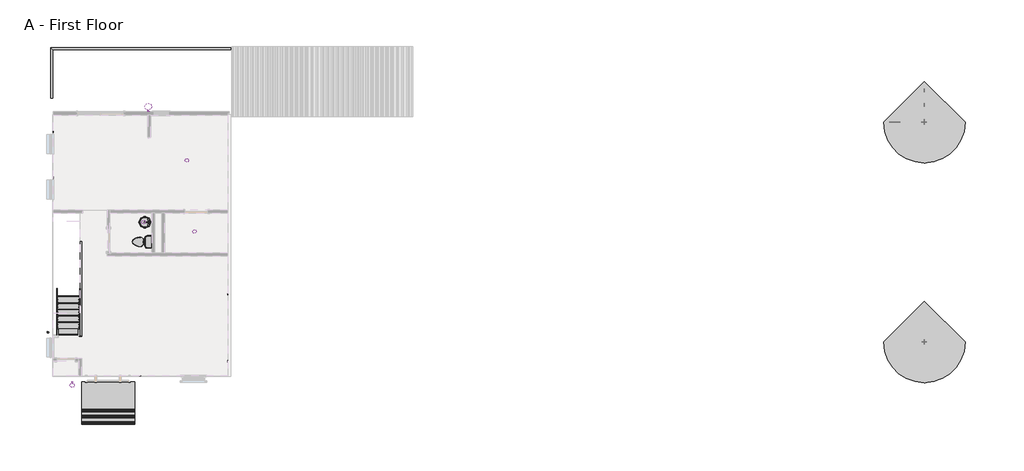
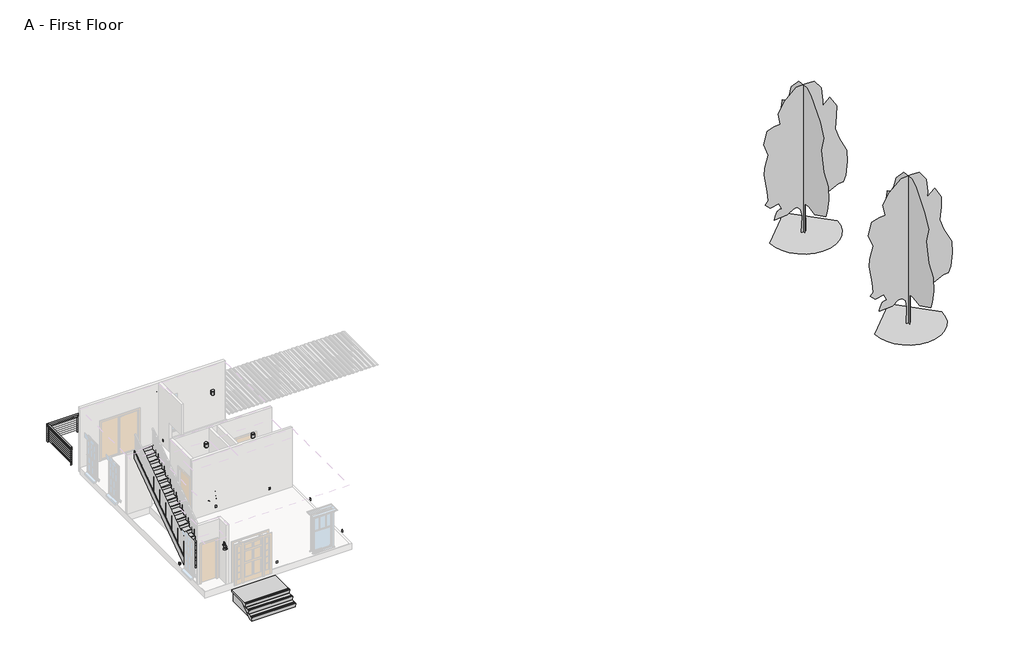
# One storey, part 3 of 3: 15 proxies, 5 light fixtures, 2 flow terminals, 2 geographic elements, 2 members, 2 railings, 1 stair flight.
"""IFC4 building model written with IfcOpenShell, lengths in millimetres."""

from ifc_helpers import new_model, si_unit, frame, origin, origin_with_axes, place, context, project, spatial, polyline, circle_curve, ellipse_curve, outline, extrude, faceted_brep, transform, mapped, element, save
from ifc_brep_helpers import plane_surface, cylinder_surface, advanced_brep
from components import outlet_duplex_single_ff17b859, outlet_duplex_single_f6f302db, outlet_duplex_single_5e711ab5, outlet_gfi_single_f183cc38, precast_porch_and_stair_11277_precast_porch_and_stair_11277_55bbf17a, weather_proof_receptacle_standard_10251bba, flow_terminal_d49f872f, toilet_domestic_3d_toilet_domestic_3d_f7549cf7, toilet_domestic_3d_toilet_domestic_3d_183bbd19, rpc_tree_deciduous_red_ash_25_14781bec, light_fixture_e8692caf, wall_lamp_bracket_100w_120v_896e4c63, wall_lamp_bracket_100w_120v_972e2e4e, stair_flight_4013ba85

model = new_model("IFC4")

# Units and contexts
model_context = context("Model", 3, world=origin())
ifc_project = project(units=[si_unit("LENGTHUNIT", "METRE", prefix="MILLI")], contexts=[model_context])

# Site, building, storey
site = spatial("IfcSite", under=ifc_project)
building = spatial("IfcBuilding", under=site)
storey = spatial("IfcBuildingStorey", under=building, Name="A - First Floor", Elevation=0.0)

# Proxies
placement = place(None, origin())
outlet_duplex_single_shape = outlet_duplex_single_ff17b859(model_context)
element("IfcBuildingElementProxy", 1, Name="Outlet-Duplex : Single", ObjectType="Outlet-Duplex : Single", at=placement, inside=storey, context=model_context, shape_type="MappedRepresentation", body=[
    mapped(outlet_duplex_single_shape, transform((-7767.1629486, -7238.6414462, 0.0), x_axis=(1.0, 0.0, 0.0), y_axis=(0.0, 1.0, 0.0), z_axis=(0.0, 0.0, 1.0))),
])
element("IfcBuildingElementProxy", 2, Name="Outlet-Duplex : Single", ObjectType="Outlet-Duplex : Single", at=placement, inside=storey, context=model_context, shape_type="MappedRepresentation", body=[
    mapped(outlet_duplex_single_shape, transform((-11397.7754486, 895.9303388, 0.0), x_axis=(0.0, -1.0, 0.0), y_axis=(1.0, 0.0, 0.0), z_axis=(0.0, 0.0, 1.0))),
])
element("IfcBuildingElementProxy", 3, Name="Outlet-Duplex : Single", ObjectType="Outlet-Duplex : Single", at=placement, inside=storey, context=model_context, shape_type="MappedRepresentation", body=[
    mapped(outlet_duplex_single_shape, transform((-11397.7754486, 2750.1303388, 0.0), x_axis=(0.0, -1.0, 0.0), y_axis=(1.0, 0.0, 0.0), z_axis=(0.0, 0.0, 1.0))),
])
outlet_duplex_single_2_shape = outlet_duplex_single_f6f302db(model_context)
element("IfcBuildingElementProxy", 4, Name="Outlet-Duplex : Single", ObjectType="Outlet-Duplex : Single", at=placement, inside=storey, context=model_context, shape_type="MappedRepresentation", body=[
    mapped(outlet_duplex_single_2_shape, transform((-4084.1629486, -6532.2039462, 0.0), x_axis=(0.0, 1.0, 0.0), y_axis=(-1.0, 0.0, 0.0), z_axis=(0.0, 0.0, 1.0))),
])
element("IfcBuildingElementProxy", 5, Name="Outlet-Duplex : Single", ObjectType="Outlet-Duplex : Single", at=placement, inside=storey, context=model_context, shape_type="MappedRepresentation", body=[
    mapped(outlet_duplex_single_2_shape, transform((-4084.1629486, -3814.4039462, 0.0), x_axis=(0.0, 1.0, 0.0), y_axis=(-1.0, 0.0, 0.0), z_axis=(0.0, 0.0, 1.0))),
])
outlet_duplex_single_3_shape = outlet_duplex_single_5e711ab5(model_context)
element("IfcBuildingElementProxy", 6, Name="Outlet-Duplex : Single", ObjectType="Outlet-Duplex : Single", at=placement, inside=storey, context=model_context, shape_type="MappedRepresentation", body=[
    mapped(outlet_duplex_single_3_shape, transform((-5316.0629486, -2214.2039462, 0.0), x_axis=(-1.0, 0.0, 0.0), y_axis=(0.0, -1.0, 0.0), z_axis=(0.0, 0.0, 1.0))),
])
element("IfcBuildingElementProxy", 7, Name="Outlet-Duplex : Single", ObjectType="Outlet-Duplex : Single", at=placement, inside=storey, context=model_context, shape_type="MappedRepresentation", body=[
    mapped(outlet_duplex_single_3_shape, transform((-7944.9629486, -2214.2039462, 0.0), x_axis=(-1.0, 0.0, 0.0), y_axis=(0.0, -1.0, 0.0), z_axis=(0.0, 0.0, 1.0))),
])
element("IfcBuildingElementProxy", 8, Name="Outlet-Duplex : Single", ObjectType="Outlet-Duplex : Single", at=placement, inside=storey, context=model_context, shape_type="MappedRepresentation", body=[
    mapped(outlet_duplex_single_3_shape, transform((-7395.6879486, 3051.5335538, 0.0), x_axis=(0.0, 1.0, 0.0), y_axis=(-1.0, 0.0, 0.0), z_axis=(0.0, 0.0, 1.0))),
])
element("IfcBuildingElementProxy", 9, Name="Outlet-Duplex : Single", ObjectType="Outlet-Duplex : Single", at=placement, inside=storey, context=model_context, shape_type="MappedRepresentation", body=[
    mapped(outlet_duplex_single_3_shape, transform((-8205.3129486, -474.3039462, 0.0), x_axis=(1.0, 0.0, 0.0), y_axis=(0.0, 1.0, 0.0), z_axis=(0.0, 0.0, 1.0))),
])
element("IfcBuildingElementProxy", 10, Name="Outlet-Duplex : Single", ObjectType="Outlet-Duplex : Single", at=placement, inside=storey, context=model_context, shape_type="MappedRepresentation", body=[
    mapped(outlet_duplex_single_3_shape, transform((-6192.3629486, -474.3039462, 0.0), x_axis=(-1.0, 0.0, 0.0), y_axis=(0.0, -1.0, 0.0), z_axis=(0.0, 0.0, 1.0))),
])
outlet_gfi_single_shape = outlet_gfi_single_f183cc38(model_context)
element("IfcBuildingElementProxy", 11, Name="Outlet-GFI : Single", ObjectType="Outlet-GFI : Single", at=placement, inside=storey, context=model_context, shape_type="MappedRepresentation", body=[
    mapped(outlet_gfi_single_shape, transform((-7589.3629486, -474.3039462, 0.0), x_axis=(-1.0, 0.0, 0.0), y_axis=(0.0, -1.0, 0.0), z_axis=(0.0, 0.0, 1.0))),
])
element("IfcBuildingElementProxy", 12, Name="Outlet-GFI : Single", ObjectType="Outlet-GFI : Single", at=placement, inside=storey, context=model_context, shape_type="MappedRepresentation", body=[
    mapped(outlet_gfi_single_shape, transform((-9046.6879486, -890.2289462, -914.4), x_axis=(0.0, -1.0, 0.0), y_axis=(1.0, 0.0, 0.0), z_axis=(0.0, 0.0, 1.0))),
])
precast_porch_and_stair_11277_precast_porch_and_stair_11277_shape = precast_porch_and_stair_11277_precast_porch_and_stair_11277_55bbf17a(model_context)
element("IfcBuildingElementProxy", 13, Name="Precast_Porch_and_Stair_11277 : Precast_Porch_and_Stair_11277", ObjectType="Precast_Porch_and_Stair_11277 : Precast_Porch_and_Stair_11277", at=placement, inside=storey, context=model_context, shape_type="MappedRepresentation", body=[
    mapped(precast_porch_and_stair_11277_precast_porch_and_stair_11277_shape, transform((-9049.8629486, -7354.5289462, -762.0), x_axis=(0.0, -1.0, 0.0), y_axis=(1.0, 0.0, 0.0), z_axis=(0.0, 0.0, 1.0))),
])
weather_proof_receptacle_standard_shape = weather_proof_receptacle_standard_10251bba(model_context)
element("IfcBuildingElementProxy", 14, Name="Weather Proof Receptacle : Standard", ObjectType="Weather Proof Receptacle : Standard", at=placement, inside=storey, context=model_context, shape_type="MappedRepresentation", body=[
    mapped(weather_proof_receptacle_standard_shape, transform((-8185.2098361, 3564.2960538, 457.2), x_axis=(-1.0, 0.0, 0.0), y_axis=(0.0, 0.0, 1.0), z_axis=(0.0, 1.0, 0.0))),
])
element("IfcBuildingElementProxy", 15, Name="Weather Proof Receptacle : Standard", ObjectType="Weather Proof Receptacle : Standard", at=placement, inside=storey, context=model_context, shape_type="MappedRepresentation", body=[
    mapped(weather_proof_receptacle_standard_shape, transform((-11513.6629486, -5357.4539462, 457.2), x_axis=(0.0, -1.0, 0.0), y_axis=(0.0, 0.0, 1.0), z_axis=(-1.0, 0.0, 0.0))),
])

# Flow terminals
flow_terminal_shape = flow_terminal_d49f872f(model_context)
element("IfcFlowTerminal", 16, ObjectType="Sink Vanity-Round : 19\" x 19\"", at=placement, inside=storey, context=model_context, shape_type="MappedRepresentation", body=[
    mapped(flow_terminal_shape, transform((-7663.0724148, -812.6272056, 28.702), x_axis=(0.0, -1.0, 0.0), y_axis=(1.0, 0.0, 0.0), z_axis=(0.0, 0.0, 1.0))),
])
toilet_domestic_3d_toilet_domestic_3d_shape = toilet_domestic_3d_toilet_domestic_3d_f7549cf7(model_context)
toilet_domestic_3d_toilet_domestic_3d_2_shape = toilet_domestic_3d_toilet_domestic_3d_183bbd19(model_context)
element("IfcFlowTerminal", 17, ObjectType="Toilet-Domestic-3D : Toilet-Domestic-3D", at=placement, inside=storey, context=model_context, shape_type="MappedRepresentation", body=[
    mapped(toilet_domestic_3d_toilet_domestic_3d_shape, transform((-7782.4339759, -1703.0289462, 19.05), x_axis=(0.0, -1.0, 0.0), y_axis=(1.0, 0.0, 0.0), z_axis=(0.0, 0.0, 1.0))),
    mapped(toilet_domestic_3d_toilet_domestic_3d_2_shape, transform((-7782.4339759, -1703.0289462, 19.05), x_axis=(0.0, -1.0, 0.0), y_axis=(1.0, 0.0, 0.0), z_axis=(0.0, 0.0, 1.0))),
])

# Geographic elements
rpc_tree_deciduous_red_ash_25_shape = rpc_tree_deciduous_red_ash_25_14781bec(model_context)
element("IfcGeographicElement", 18, ObjectType="RPC Tree - Deciduous : Red Ash - 25'", at=placement, inside=storey, context=model_context, shape_type="MappedRepresentation", body=[
    mapped(rpc_tree_deciduous_red_ash_25_shape, transform((23919.3370514, 3138.8460538, 59.245156), x_axis=(1.0, 0.0, 0.0), y_axis=(0.0, 1.0, 0.0), z_axis=(0.0, 0.0, 1.0))),
])
element("IfcGeographicElement", 19, ObjectType="RPC Tree - Deciduous : Red Ash - 25'", at=placement, inside=storey, context=model_context, shape_type="MappedRepresentation", body=[
    mapped(rpc_tree_deciduous_red_ash_25_shape, transform((23919.3370514, -5751.1539462, 740.2392144), x_axis=(1.0, 0.0, 0.0), y_axis=(0.0, 1.0, 0.0), z_axis=(0.0, 0.0, 1.0))),
])

# Light fixtures
light_fixture_shape = light_fixture_e8692caf(model_context)
element("IfcLightFixture", 20, ObjectType="Downlight - Recessed Can : 6\" Incandescent - 120V", at=placement, inside=storey, context=model_context, shape_type="MappedRepresentation", body=[
    mapped(light_fixture_shape, transform((-5878.0379486, 1592.6210538, 584.2), x_axis=(1.0, 0.0, 0.0), y_axis=(0.0, 1.0, 0.0), z_axis=(0.0, 0.0, 1.0))),
])
element("IfcLightFixture", 21, ObjectType="Downlight - Recessed Can : 6\" Incandescent - 120V", at=placement, inside=storey, context=model_context, shape_type="MappedRepresentation", body=[
    mapped(light_fixture_shape, transform((-5573.2379486, -1280.7539462, 0.0), x_axis=(1.0, 0.0, 0.0), y_axis=(0.0, 1.0, 0.0), z_axis=(0.0, 0.0, 1.0))),
])
element("IfcLightFixture", 22, ObjectType="Downlight - Recessed Can : 6\" Incandescent - 120V", at=placement, inside=storey, context=model_context, shape_type="MappedRepresentation", body=[
    mapped(light_fixture_shape, transform((-7630.6379486, -899.7539462, 0.0), x_axis=(1.0, 0.0, 0.0), y_axis=(0.0, 1.0, 0.0), z_axis=(0.0, 0.0, 1.0))),
])
wall_lamp_bracket_100w_120v_shape = wall_lamp_bracket_100w_120v_896e4c63(model_context)
element("IfcLightFixture", 23, ObjectType="Wall Lamp - Bracket : 100W - 120V", at=placement, inside=storey, context=model_context, shape_type="MappedRepresentation", body=[
    mapped(wall_lamp_bracket_100w_120v_shape, transform((-10546.7186112, -7238.6414462, 0.0), x_axis=(-1.0, 0.0, 0.0), y_axis=(0.0, -1.0, 0.0), z_axis=(0.0, 0.0, 1.0))),
])
wall_lamp_bracket_100w_120v_2_shape = wall_lamp_bracket_100w_120v_972e2e4e(model_context)
element("IfcLightFixture", 24, ObjectType="Wall Lamp - Bracket : 100W - 120V", at=placement, inside=storey, context=model_context, shape_type="MappedRepresentation", body=[
    mapped(wall_lamp_bracket_100w_120v_2_shape, transform((-7406.9572859, 3497.6210538, 0.0), x_axis=(1.0, 0.0, 0.0), y_axis=(0.0, 1.0, 0.0), z_axis=(0.0, 0.0, 1.0))),
])

# Members
element("IfcMember", 25, ObjectType="Stringer - Paint - 3/4\" Width", at=placement, inside=storey, context=model_context, shape_type="SweptSolid", body=[
    extrude(outline(polyline([(-5459.0539462, 19.05), (-5459.0539462, 256.9557145), (-887.0539462, 3451.339925), (-887.0539462, 3079.5139533), (-5267.3790017, 19.05), (-5459.0539462, 19.05)])), frame((-11142.1879486, 0.0, 0.0), z_axis=(1.0, 0.0, 0.0), x_axis=(0.0, 1.0, 0.0)), (0.0, 0.0, 1.0), 19.05),
])
element("IfcMember", 26, ObjectType="Stringer - Paint - 3/4\" Width", at=placement, inside=storey, context=model_context, shape_type="SweptSolid", body=[
    extrude(outline(polyline([(-5459.0539462, 19.05), (-5459.0539462, 256.9557145), (-887.0539462, 3451.339925), (-887.0539462, 3079.5139533), (-5267.3790017, 19.05), (-5459.0539462, 19.05)])), frame((-10208.7379486, 0.0, 0.0), z_axis=(1.0, 0.0, 0.0), x_axis=(0.0, 1.0, 0.0)), (0.0, 0.0, 1.0), 19.05),
])

# Railings
element("IfcRailing", 27, ObjectType="36\"", at=placement, inside=storey, context=model_context, shape_type="SolidModel", body=[
    faceted_brep([(-4100.0379486, 6066.1960538, 673.1), (-4100.0379486, 6066.1960538, 660.4), (-4100.0379486, 6142.3960538, 660.4), (-4100.0379486, 6142.3960538, 673.1), (-11300.9379486, 6066.1960538, 673.1), (-11300.9379486, 6066.1960538, 660.4), (-11377.1379486, 6142.3960538, 660.4), (-11377.1379486, 6142.3960538, 673.1), (-11300.9379486, 4107.2210538, 673.1), (-11377.1379486, 4107.2210538, 673.1), (-11377.1379486, 4107.2210538, 660.4), (-11300.9379486, 4107.2210538, 660.4)], [[[0, 1, 2, 3]], [[1, 0, 4, 5]], [[2, 1, 5, 6]], [[3, 2, 6, 7]], [[0, 3, 7, 4]], [[8, 9, 10, 11]], [[5, 4, 8, 11]], [[6, 5, 11, 10]], [[7, 6, 10, 9]], [[4, 7, 9, 8]]]),
    faceted_brep([(-4100.0379486, 6142.3960538, 584.2), (-4100.0379486, 6066.1960538, 584.2), (-4100.0379486, 6066.1960538, 571.5), (-4100.0379486, 6142.3960538, 571.5), (-11377.1379486, 6142.3960538, 584.2), (-11300.9379486, 6066.1960538, 584.2), (-11300.9379486, 6066.1960538, 571.5), (-11377.1379486, 6142.3960538, 571.5), (-11377.1379486, 4107.2210538, 584.2), (-11377.1379486, 4107.2210538, 571.5), (-11300.9379486, 4107.2210538, 571.5), (-11300.9379486, 4107.2210538, 584.2)], [[[0, 1, 2, 3]], [[1, 0, 4, 5]], [[2, 1, 5, 6]], [[3, 2, 6, 7]], [[0, 3, 7, 4]], [[8, 9, 10, 11]], [[5, 4, 8, 11]], [[6, 5, 11, 10]], [[7, 6, 10, 9]], [[4, 7, 9, 8]]]),
    advanced_brep(
    [(-4100.0379486, 6101.1210538, 469.9), (-4100.0379486, 6107.4710538, 469.9), (-11335.8629486, 6101.1210538, 469.9), (-11342.2129486, 6107.4710538, 469.9), (-11335.8629486, 4107.2210538, 469.9), (-11342.2129486, 4107.2210538, 469.9)],
    [
        (0, 1, circle_curve(frame((-4100.0379486, 6104.2960538, 469.9), z_axis=(1.0, 0.0, 0.0), x_axis=(0.0, 1.0, 0.0)), 3.175)),
        (1, 0, circle_curve(frame((-4100.0379486, 6104.2960538, 469.9), z_axis=(1.0, 0.0, 0.0), x_axis=(0.0, 1.0, 0.0)), 3.175)),
        (0, 2),
        (2, 3, ellipse_curve(frame((-11339.0379486, 6104.2960538, 469.9), z_axis=(0.7071067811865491, 0.7071067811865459, 0.0), x_axis=(0.7071067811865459, -0.7071067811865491, 0.0)), 4.4901281, 3.175)),
        (3, 1),
        (3, 2, ellipse_curve(frame((-11339.0379486, 6104.2960538, 469.9), z_axis=(0.7071067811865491, 0.7071067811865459, 0.0), x_axis=(0.7071067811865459, -0.7071067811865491, 0.0)), 4.4901281, 3.175)),
        (4, 5, circle_curve(frame((-11339.0379486, 4107.2210538, 469.9), z_axis=(0.0, -1.0, 0.0), x_axis=(-1.0, 0.0, 0.0)), 3.175)),
        (5, 4, circle_curve(frame((-11339.0379486, 4107.2210538, 469.9), z_axis=(0.0, -1.0, 0.0), x_axis=(-1.0, 0.0, 0.0)), 3.175)),
        (2, 4),
        (5, 3),
    ],
    [
        plane_surface(frame((-4100.0379486, 6104.2960538, 469.9), z_axis=(1.0, 0.0, 0.0), x_axis=(0.0, -1.0, 0.0))),
        cylinder_surface(frame((-4100.0379486, 6104.2960538, 469.9), z_axis=(1.0, 0.0, 0.0), x_axis=(0.0, 1.0, 0.0)), 3.175),
        plane_surface(frame((-11339.0379486, 4107.2210538, 469.9), z_axis=(0.0, -1.0, 0.0), x_axis=(0.0, 0.0, -1.0))),
        cylinder_surface(frame((-11339.0379486, 6104.2960538, 469.9), z_axis=(0.0, 1.0, 0.0), x_axis=(-1.0, 0.0, 0.0)), 3.175),
    ],
    [
        (0, [[1, 2]]),
        (1, [[-1, 3, 4, 5]]),
        (1, [[-2, -5, 6, -3]]),
        (2, [[7, 8]]),
        (3, [[-4, 9, -8, 10]]),
        (3, [[-6, -10, -7, -9]]),
    ],
),
    advanced_brep(
    [(-4100.0379486, 6101.1210538, 368.3), (-4100.0379486, 6107.4710538, 368.3), (-11335.8629486, 6101.1210538, 368.3), (-11342.2129486, 6107.4710538, 368.3), (-11335.8629486, 4107.2210538, 368.3), (-11342.2129486, 4107.2210538, 368.3)],
    [
        (0, 1, circle_curve(frame((-4100.0379486, 6104.2960538, 368.3), z_axis=(1.0, 0.0, 0.0), x_axis=(0.0, 1.0, 0.0)), 3.175)),
        (1, 0, circle_curve(frame((-4100.0379486, 6104.2960538, 368.3), z_axis=(1.0, 0.0, 0.0), x_axis=(0.0, 1.0, 0.0)), 3.175)),
        (0, 2),
        (2, 3, ellipse_curve(frame((-11339.0379486, 6104.2960538, 368.3), z_axis=(0.7071067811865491, 0.7071067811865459, 0.0), x_axis=(0.7071067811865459, -0.7071067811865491, 0.0)), 4.4901281, 3.175)),
        (3, 1),
        (3, 2, ellipse_curve(frame((-11339.0379486, 6104.2960538, 368.3), z_axis=(0.7071067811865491, 0.7071067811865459, 0.0), x_axis=(0.7071067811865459, -0.7071067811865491, 0.0)), 4.4901281, 3.175)),
        (4, 5, circle_curve(frame((-11339.0379486, 4107.2210538, 368.3), z_axis=(0.0, -1.0, 0.0), x_axis=(-1.0, 0.0, 0.0)), 3.175)),
        (5, 4, circle_curve(frame((-11339.0379486, 4107.2210538, 368.3), z_axis=(0.0, -1.0, 0.0), x_axis=(-1.0, 0.0, 0.0)), 3.175)),
        (2, 4),
        (5, 3),
    ],
    [
        plane_surface(frame((-4100.0379486, 6104.2960538, 368.3), z_axis=(1.0, 0.0, 0.0), x_axis=(0.0, -1.0, 0.0))),
        cylinder_surface(frame((-4100.0379486, 6104.2960538, 368.3), z_axis=(1.0, 0.0, 0.0), x_axis=(0.0, 1.0, 0.0)), 3.175),
        plane_surface(frame((-11339.0379486, 4107.2210538, 368.3), z_axis=(0.0, -1.0, 0.0), x_axis=(0.0, 0.0, -1.0))),
        cylinder_surface(frame((-11339.0379486, 6104.2960538, 368.3), z_axis=(0.0, 1.0, 0.0), x_axis=(-1.0, 0.0, 0.0)), 3.175),
    ],
    [
        (0, [[1, 2]]),
        (1, [[-1, 3, 4, 5]]),
        (1, [[-2, -5, 6, -3]]),
        (2, [[7, 8]]),
        (3, [[-4, 9, -8, 10]]),
        (3, [[-6, -10, -7, -9]]),
    ],
),
    advanced_brep(
    [(-4100.0379486, 6101.1210538, 266.7), (-4100.0379486, 6107.4710538, 266.7), (-11335.8629486, 6101.1210538, 266.7), (-11342.2129486, 6107.4710538, 266.7), (-11335.8629486, 4107.2210538, 266.7), (-11342.2129486, 4107.2210538, 266.7)],
    [
        (0, 1, circle_curve(frame((-4100.0379486, 6104.2960538, 266.7), z_axis=(1.0, 0.0, 0.0), x_axis=(0.0, 1.0, 0.0)), 3.175)),
        (1, 0, circle_curve(frame((-4100.0379486, 6104.2960538, 266.7), z_axis=(1.0, 0.0, 0.0), x_axis=(0.0, 1.0, 0.0)), 3.175)),
        (0, 2),
        (2, 3, ellipse_curve(frame((-11339.0379486, 6104.2960538, 266.7), z_axis=(0.7071067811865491, 0.7071067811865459, 0.0), x_axis=(0.7071067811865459, -0.7071067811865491, 0.0)), 4.4901281, 3.175)),
        (3, 1),
        (3, 2, ellipse_curve(frame((-11339.0379486, 6104.2960538, 266.7), z_axis=(0.7071067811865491, 0.7071067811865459, 0.0), x_axis=(0.7071067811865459, -0.7071067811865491, 0.0)), 4.4901281, 3.175)),
        (4, 5, circle_curve(frame((-11339.0379486, 4107.2210538, 266.7), z_axis=(0.0, -1.0, 0.0), x_axis=(-1.0, 0.0, 0.0)), 3.175)),
        (5, 4, circle_curve(frame((-11339.0379486, 4107.2210538, 266.7), z_axis=(0.0, -1.0, 0.0), x_axis=(-1.0, 0.0, 0.0)), 3.175)),
        (2, 4),
        (5, 3),
    ],
    [
        plane_surface(frame((-4100.0379486, 6104.2960538, 266.7), z_axis=(1.0, 0.0, 0.0), x_axis=(0.0, -1.0, 0.0))),
        cylinder_surface(frame((-4100.0379486, 6104.2960538, 266.7), z_axis=(1.0, 0.0, 0.0), x_axis=(0.0, 1.0, 0.0)), 3.175),
        plane_surface(frame((-11339.0379486, 4107.2210538, 266.7), z_axis=(0.0, -1.0, 0.0), x_axis=(0.0, 0.0, -1.0))),
        cylinder_surface(frame((-11339.0379486, 6104.2960538, 266.7), z_axis=(0.0, 1.0, 0.0), x_axis=(-1.0, 0.0, 0.0)), 3.175),
    ],
    [
        (0, [[1, 2]]),
        (1, [[-1, 3, 4, 5]]),
        (1, [[-2, -5, 6, -3]]),
        (2, [[7, 8]]),
        (3, [[-4, 9, -8, 10]]),
        (3, [[-6, -10, -7, -9]]),
    ],
),
    advanced_brep(
    [(-4100.0379486, 6101.1210538, 165.1), (-4100.0379486, 6107.4710538, 165.1), (-11335.8629486, 6101.1210538, 165.1), (-11342.2129486, 6107.4710538, 165.1), (-11335.8629486, 4107.2210538, 165.1), (-11342.2129486, 4107.2210538, 165.1)],
    [
        (0, 1, circle_curve(frame((-4100.0379486, 6104.2960538, 165.1), z_axis=(1.0, 0.0, 0.0), x_axis=(0.0, 1.0, 0.0)), 3.175)),
        (1, 0, circle_curve(frame((-4100.0379486, 6104.2960538, 165.1), z_axis=(1.0, 0.0, 0.0), x_axis=(0.0, 1.0, 0.0)), 3.175)),
        (0, 2),
        (2, 3, ellipse_curve(frame((-11339.0379486, 6104.2960538, 165.1), z_axis=(0.7071067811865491, 0.7071067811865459, 0.0), x_axis=(0.7071067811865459, -0.7071067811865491, 0.0)), 4.4901281, 3.175)),
        (3, 1),
        (3, 2, ellipse_curve(frame((-11339.0379486, 6104.2960538, 165.1), z_axis=(0.7071067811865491, 0.7071067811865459, 0.0), x_axis=(0.7071067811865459, -0.7071067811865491, 0.0)), 4.4901281, 3.175)),
        (4, 5, circle_curve(frame((-11339.0379486, 4107.2210538, 165.1), z_axis=(0.0, -1.0, 0.0), x_axis=(-1.0, 0.0, 0.0)), 3.175)),
        (5, 4, circle_curve(frame((-11339.0379486, 4107.2210538, 165.1), z_axis=(0.0, -1.0, 0.0), x_axis=(-1.0, 0.0, 0.0)), 3.175)),
        (2, 4),
        (5, 3),
    ],
    [
        plane_surface(frame((-4100.0379486, 6104.2960538, 165.1), z_axis=(1.0, 0.0, 0.0), x_axis=(0.0, -1.0, 0.0))),
        cylinder_surface(frame((-4100.0379486, 6104.2960538, 165.1), z_axis=(1.0, 0.0, 0.0), x_axis=(0.0, 1.0, 0.0)), 3.175),
        plane_surface(frame((-11339.0379486, 4107.2210538, 165.1), z_axis=(0.0, -1.0, 0.0), x_axis=(0.0, 0.0, -1.0))),
        cylinder_surface(frame((-11339.0379486, 6104.2960538, 165.1), z_axis=(0.0, 1.0, 0.0), x_axis=(-1.0, 0.0, 0.0)), 3.175),
    ],
    [
        (0, [[1, 2]]),
        (1, [[-1, 3, 4, 5]]),
        (1, [[-2, -5, 6, -3]]),
        (2, [[7, 8]]),
        (3, [[-4, 9, -8, 10]]),
        (3, [[-6, -10, -7, -9]]),
    ],
),
    advanced_brep(
    [(-4100.0379486, 6101.1210538, 63.5), (-4100.0379486, 6107.4710538, 63.5), (-11335.8629486, 6101.1210538, 63.5), (-11342.2129486, 6107.4710538, 63.5), (-11335.8629486, 4107.2210538, 63.5), (-11342.2129486, 4107.2210538, 63.5)],
    [
        (0, 1, circle_curve(frame((-4100.0379486, 6104.2960538, 63.5), z_axis=(1.0, 0.0, 0.0), x_axis=(0.0, 1.0, 0.0)), 3.175)),
        (1, 0, circle_curve(frame((-4100.0379486, 6104.2960538, 63.5), z_axis=(1.0, 0.0, 0.0), x_axis=(0.0, 1.0, 0.0)), 3.175)),
        (0, 2),
        (2, 3, ellipse_curve(frame((-11339.0379486, 6104.2960538, 63.5), z_axis=(0.7071067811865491, 0.7071067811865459, 0.0), x_axis=(0.7071067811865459, -0.7071067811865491, 0.0)), 4.4901281, 3.175)),
        (3, 1),
        (3, 2, ellipse_curve(frame((-11339.0379486, 6104.2960538, 63.5), z_axis=(0.7071067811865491, 0.7071067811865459, 0.0), x_axis=(0.7071067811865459, -0.7071067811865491, 0.0)), 4.4901281, 3.175)),
        (4, 5, circle_curve(frame((-11339.0379486, 4107.2210538, 63.5), z_axis=(0.0, -1.0, 0.0), x_axis=(-1.0, 0.0, 0.0)), 3.175)),
        (5, 4, circle_curve(frame((-11339.0379486, 4107.2210538, 63.5), z_axis=(0.0, -1.0, 0.0), x_axis=(-1.0, 0.0, 0.0)), 3.175)),
        (2, 4),
        (5, 3),
    ],
    [
        plane_surface(frame((-4100.0379486, 6104.2960538, 63.5), z_axis=(1.0, 0.0, 0.0), x_axis=(0.0, -1.0, 0.0))),
        cylinder_surface(frame((-4100.0379486, 6104.2960538, 63.5), z_axis=(1.0, 0.0, 0.0), x_axis=(0.0, 1.0, 0.0)), 3.175),
        plane_surface(frame((-11339.0379486, 4107.2210538, 63.5), z_axis=(0.0, -1.0, 0.0), x_axis=(0.0, 0.0, -1.0))),
        cylinder_surface(frame((-11339.0379486, 6104.2960538, 63.5), z_axis=(0.0, 1.0, 0.0), x_axis=(-1.0, 0.0, 0.0)), 3.175),
    ],
    [
        (0, [[1, 2]]),
        (1, [[-1, 3, 4, 5]]),
        (1, [[-2, -5, 6, -3]]),
        (2, [[7, 8]]),
        (3, [[-4, 9, -8, 10]]),
        (3, [[-6, -10, -7, -9]]),
    ],
),
    advanced_brep(
    [(-4100.0379486, 6101.1210538, -38.1), (-4100.0379486, 6107.4710538, -38.1), (-11335.8629486, 6101.1210538, -38.1), (-11342.2129486, 6107.4710538, -38.1), (-11335.8629486, 4107.2210538, -38.1), (-11342.2129486, 4107.2210538, -38.1)],
    [
        (0, 1, circle_curve(frame((-4100.0379486, 6104.2960538, -38.1), z_axis=(1.0, 0.0, 0.0), x_axis=(0.0, 1.0, 0.0)), 3.175)),
        (1, 0, circle_curve(frame((-4100.0379486, 6104.2960538, -38.1), z_axis=(1.0, 0.0, 0.0), x_axis=(0.0, 1.0, 0.0)), 3.175)),
        (0, 2),
        (2, 3, ellipse_curve(frame((-11339.0379486, 6104.2960538, -38.1), z_axis=(0.7071067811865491, 0.7071067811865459, 0.0), x_axis=(0.7071067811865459, -0.7071067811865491, 0.0)), 4.4901281, 3.175)),
        (3, 1),
        (3, 2, ellipse_curve(frame((-11339.0379486, 6104.2960538, -38.1), z_axis=(0.7071067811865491, 0.7071067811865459, 0.0), x_axis=(0.7071067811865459, -0.7071067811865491, 0.0)), 4.4901281, 3.175)),
        (4, 5, circle_curve(frame((-11339.0379486, 4107.2210538, -38.1), z_axis=(0.0, -1.0, 0.0), x_axis=(-1.0, 0.0, 0.0)), 3.175)),
        (5, 4, circle_curve(frame((-11339.0379486, 4107.2210538, -38.1), z_axis=(0.0, -1.0, 0.0), x_axis=(-1.0, 0.0, 0.0)), 3.175)),
        (2, 4),
        (5, 3),
    ],
    [
        plane_surface(frame((-4100.0379486, 6104.2960538, -38.1), z_axis=(1.0, 0.0, 0.0), x_axis=(0.0, -1.0, 0.0))),
        cylinder_surface(frame((-4100.0379486, 6104.2960538, -38.1), z_axis=(1.0, 0.0, 0.0), x_axis=(0.0, 1.0, 0.0)), 3.175),
        plane_surface(frame((-11339.0379486, 4107.2210538, -38.1), z_axis=(0.0, -1.0, 0.0), x_axis=(0.0, 0.0, -1.0))),
        cylinder_surface(frame((-11339.0379486, 6104.2960538, -38.1), z_axis=(0.0, 1.0, 0.0), x_axis=(-1.0, 0.0, 0.0)), 3.175),
    ],
    [
        (0, [[1, 2]]),
        (1, [[-1, 3, 4, 5]]),
        (1, [[-2, -5, 6, -3]]),
        (2, [[7, 8]]),
        (3, [[-4, 9, -8, 10]]),
        (3, [[-6, -10, -7, -9]]),
    ],
),
    advanced_brep(
    [(-4100.0379486, 6101.1210538, -139.7), (-4100.0379486, 6107.4710538, -139.7), (-11335.8629486, 6101.1210538, -139.7), (-11342.2129486, 6107.4710538, -139.7), (-11335.8629486, 4107.2210538, -139.7), (-11342.2129486, 4107.2210538, -139.7)],
    [
        (0, 1, circle_curve(frame((-4100.0379486, 6104.2960538, -139.7), z_axis=(1.0, 0.0, 0.0), x_axis=(0.0, 1.0, 0.0)), 3.175)),
        (1, 0, circle_curve(frame((-4100.0379486, 6104.2960538, -139.7), z_axis=(1.0, 0.0, 0.0), x_axis=(0.0, 1.0, 0.0)), 3.175)),
        (0, 2),
        (2, 3, ellipse_curve(frame((-11339.0379486, 6104.2960538, -139.7), z_axis=(0.7071067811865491, 0.7071067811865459, 0.0), x_axis=(0.7071067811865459, -0.7071067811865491, 0.0)), 4.4901281, 3.175)),
        (3, 1),
        (3, 2, ellipse_curve(frame((-11339.0379486, 6104.2960538, -139.7), z_axis=(0.7071067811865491, 0.7071067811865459, 0.0), x_axis=(0.7071067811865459, -0.7071067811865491, 0.0)), 4.4901281, 3.175)),
        (4, 5, circle_curve(frame((-11339.0379486, 4107.2210538, -139.7), z_axis=(0.0, -1.0, 0.0), x_axis=(-1.0, 0.0, 0.0)), 3.175)),
        (5, 4, circle_curve(frame((-11339.0379486, 4107.2210538, -139.7), z_axis=(0.0, -1.0, 0.0), x_axis=(-1.0, 0.0, 0.0)), 3.175)),
        (2, 4),
        (5, 3),
    ],
    [
        plane_surface(frame((-4100.0379486, 6104.2960538, -139.7), z_axis=(1.0, 0.0, 0.0), x_axis=(0.0, -1.0, 0.0))),
        cylinder_surface(frame((-4100.0379486, 6104.2960538, -139.7), z_axis=(1.0, 0.0, 0.0), x_axis=(0.0, 1.0, 0.0)), 3.175),
        plane_surface(frame((-11339.0379486, 4107.2210538, -139.7), z_axis=(0.0, -1.0, 0.0), x_axis=(0.0, 0.0, -1.0))),
        cylinder_surface(frame((-11339.0379486, 6104.2960538, -139.7), z_axis=(0.0, 1.0, 0.0), x_axis=(-1.0, 0.0, 0.0)), 3.175),
    ],
    [
        (0, [[1, 2]]),
        (1, [[-1, 3, 4, 5]]),
        (1, [[-2, -5, 6, -3]]),
        (2, [[7, 8]]),
        (3, [[-4, 9, -8, 10]]),
        (3, [[-6, -10, -7, -9]]),
    ],
),
    extrude(outline(polyline([(-9897.5879486, 6078.8960538), (-9897.5879486, 6129.6960538), (-9884.8879486, 6129.6960538), (-9884.8879486, 6078.8960538), (-9897.5879486, 6078.8960538)])), frame((0.0, 0.0, -241.3), z_axis=(0.0, 0.0, 1.0), x_axis=(1.0, 0.0, 0.0)), (0.0, 0.0, 1.0), 812.8),
    extrude(outline(polyline([(-9897.5879486, 6078.8960538), (-9897.5879486, 6129.6960538), (-9884.8879486, 6129.6960538), (-9884.8879486, 6078.8960538), (-9897.5879486, 6078.8960538)])), frame((0.0, 0.0, 584.2), z_axis=(0.0, 0.0, 1.0), x_axis=(1.0, 0.0, 0.0)), (0.0, 0.0, 1.0), 76.2),
    extrude(outline(polyline([(-8449.7879486, 6078.8960538), (-8449.7879486, 6129.6960538), (-8437.0879486, 6129.6960538), (-8437.0879486, 6078.8960538), (-8449.7879486, 6078.8960538)])), frame((0.0, 0.0, -241.3), z_axis=(0.0, 0.0, 1.0), x_axis=(1.0, 0.0, 0.0)), (0.0, 0.0, 1.0), 812.8),
    extrude(outline(polyline([(-8449.7879486, 6078.8960538), (-8449.7879486, 6129.6960538), (-8437.0879486, 6129.6960538), (-8437.0879486, 6078.8960538), (-8449.7879486, 6078.8960538)])), frame((0.0, 0.0, 584.2), z_axis=(0.0, 0.0, 1.0), x_axis=(1.0, 0.0, 0.0)), (0.0, 0.0, 1.0), 76.2),
    extrude(outline(polyline([(-7001.9879486, 6078.8960538), (-7001.9879486, 6129.6960538), (-6989.2879486, 6129.6960538), (-6989.2879486, 6078.8960538), (-7001.9879486, 6078.8960538)])), frame((0.0, 0.0, -241.3), z_axis=(0.0, 0.0, 1.0), x_axis=(1.0, 0.0, 0.0)), (0.0, 0.0, 1.0), 812.8),
    extrude(outline(polyline([(-7001.9879486, 6078.8960538), (-7001.9879486, 6129.6960538), (-6989.2879486, 6129.6960538), (-6989.2879486, 6078.8960538), (-7001.9879486, 6078.8960538)])), frame((0.0, 0.0, 584.2), z_axis=(0.0, 0.0, 1.0), x_axis=(1.0, 0.0, 0.0)), (0.0, 0.0, 1.0), 76.2),
    extrude(outline(polyline([(-5554.1879486, 6078.8960538), (-5554.1879486, 6129.6960538), (-5541.4879486, 6129.6960538), (-5541.4879486, 6078.8960538), (-5554.1879486, 6078.8960538)])), frame((0.0, 0.0, -241.3), z_axis=(0.0, 0.0, 1.0), x_axis=(1.0, 0.0, 0.0)), (0.0, 0.0, 1.0), 812.8),
    extrude(outline(polyline([(-5554.1879486, 6078.8960538), (-5554.1879486, 6129.6960538), (-5541.4879486, 6129.6960538), (-5541.4879486, 6078.8960538), (-5554.1879486, 6078.8960538)])), frame((0.0, 0.0, 584.2), z_axis=(0.0, 0.0, 1.0), x_axis=(1.0, 0.0, 0.0)), (0.0, 0.0, 1.0), 76.2),
    extrude(outline(polyline([(-11364.4379486, 6078.8960538), (-11364.4379486, 6129.6960538), (-11313.6379486, 6129.6960538), (-11313.6379486, 6078.8960538), (-11364.4379486, 6078.8960538)])), frame((0.0, 0.0, -241.3), z_axis=(0.0, 0.0, 1.0), x_axis=(1.0, 0.0, 0.0)), (0.0, 0.0, 1.0), 812.8),
    extrude(outline(polyline([(-11364.4379486, 6078.8960538), (-11364.4379486, 6129.6960538), (-11313.6379486, 6129.6960538), (-11313.6379486, 6078.8960538), (-11364.4379486, 6078.8960538)])), frame((0.0, 0.0, 584.2), z_axis=(0.0, 0.0, 1.0), x_axis=(1.0, 0.0, 0.0)), (0.0, 0.0, 1.0), 76.2),
    extrude(outline(polyline([(-11313.6379486, 4107.2210538), (-11364.4379486, 4107.2210538), (-11364.4379486, 4119.9210538), (-11313.6379486, 4119.9210538), (-11313.6379486, 4107.2210538)])), frame((0.0, 0.0, -241.3), z_axis=(0.0, 0.0, 1.0), x_axis=(1.0, 0.0, 0.0)), (0.0, 0.0, 1.0), 812.8),
    extrude(outline(polyline([(-11313.6379486, 4107.2210538), (-11364.4379486, 4107.2210538), (-11364.4379486, 4119.9210538), (-11313.6379486, 4119.9210538), (-11313.6379486, 4107.2210538)])), frame((0.0, 0.0, 584.2), z_axis=(0.0, 0.0, 1.0), x_axis=(1.0, 0.0, 0.0)), (0.0, 0.0, 1.0), 76.2),
    extrude(outline(polyline([(-4112.7379486, 6078.8960538), (-4112.7379486, 6129.6960538), (-4100.0379486, 6129.6960538), (-4100.0379486, 6078.8960538), (-4112.7379486, 6078.8960538)])), frame((0.0, 0.0, -241.3), z_axis=(0.0, 0.0, 1.0), x_axis=(1.0, 0.0, 0.0)), (0.0, 0.0, 1.0), 812.8),
    extrude(outline(polyline([(-4112.7379486, 6078.8960538), (-4112.7379486, 6129.6960538), (-4100.0379486, 6129.6960538), (-4100.0379486, 6078.8960538), (-4112.7379486, 6078.8960538)])), frame((0.0, 0.0, 584.2), z_axis=(0.0, 0.0, 1.0), x_axis=(1.0, 0.0, 0.0)), (0.0, 0.0, 1.0), 76.2),
])
element("IfcRailing", 28, ObjectType="Handrail - Rectangular 2", at=placement, inside=storey, context=model_context, shape_type="SolidModel", body=[
    faceted_brep([(-10234.1379486, -5484.4539462, 1066.8), (-10234.1379486, -5484.4539462, 1016.0), (-10234.1379486, -5535.2539462, 1016.0), (-10234.1379486, -5535.2539462, 1066.8), (-10183.3379486, -5484.4539462, 1066.8), (-10183.3379486, -5484.4539462, 1016.0), (-10132.5379486, -5535.2539462, 1016.0), (-10132.5379486, -5535.2539462, 1066.8), (-10183.3379486, -1693.5039462, 1066.8), (-10132.5379486, -1693.5039462, 1066.8), (-10132.5379486, -1693.5039462, 1016.0), (-10183.3379486, -1693.5039462, 1016.0)], [[[0, 1, 2, 3]], [[1, 0, 4, 5]], [[2, 1, 5, 6]], [[3, 2, 6, 7]], [[0, 3, 7, 4]], [[8, 9, 10, 11]], [[5, 4, 8, 11]], [[6, 5, 11, 10]], [[7, 6, 10, 9]], [[4, 7, 9, 8]]]),
    faceted_brep([(-10234.1379486, -5535.2539462, 0.0), (-10234.1379486, -5484.4539462, 0.0), (-10234.1379486, -5484.4539462, -50.8), (-10234.1379486, -5535.2539462, -50.8), (-10132.5379486, -5535.2539462, 0.0), (-10183.3379486, -5484.4539462, 0.0), (-10183.3379486, -5484.4539462, -50.8), (-10132.5379486, -5535.2539462, -50.8), (-10132.5379486, -1693.5039462, 0.0), (-10132.5379486, -1693.5039462, -50.8), (-10183.3379486, -1693.5039462, -50.8), (-10183.3379486, -1693.5039462, 0.0)], [[[0, 1, 2, 3]], [[1, 0, 4, 5]], [[2, 1, 5, 6]], [[3, 2, 6, 7]], [[0, 3, 7, 4]], [[8, 9, 10, 11]], [[5, 4, 8, 11]], [[6, 5, 11, 10]], [[7, 6, 10, 9]], [[4, 7, 9, 8]]]),
    extrude(outline(polyline([(-10148.4129486, -1760.1789462), (-10167.4629486, -1760.1789462), (-10167.4629486, -1741.1289462), (-10148.4129486, -1741.1289462), (-10148.4129486, -1760.1789462)])), origin_with_axes(), (0.0, 0.0, 1.0), 1016.0),
    extrude(outline(polyline([(-10148.4129486, -1861.7789462), (-10167.4629486, -1861.7789462), (-10167.4629486, -1842.7289462), (-10148.4129486, -1842.7289462), (-10148.4129486, -1861.7789462)])), origin_with_axes(), (0.0, 0.0, 1.0), 1016.0),
    extrude(outline(polyline([(-10148.4129486, -1963.3789462), (-10167.4629486, -1963.3789462), (-10167.4629486, -1944.3289462), (-10148.4129486, -1944.3289462), (-10148.4129486, -1963.3789462)])), origin_with_axes(), (0.0, 0.0, 1.0), 1016.0),
    extrude(outline(polyline([(-10148.4129486, -2064.9789462), (-10167.4629486, -2064.9789462), (-10167.4629486, -2045.9289462), (-10148.4129486, -2045.9289462), (-10148.4129486, -2064.9789462)])), origin_with_axes(), (0.0, 0.0, 1.0), 1016.0),
    extrude(outline(polyline([(-10148.4129486, -2166.5789462), (-10167.4629486, -2166.5789462), (-10167.4629486, -2147.5289462), (-10148.4129486, -2147.5289462), (-10148.4129486, -2166.5789462)])), origin_with_axes(), (0.0, 0.0, 1.0), 1016.0),
    extrude(outline(polyline([(-10148.4129486, -2268.1789462), (-10167.4629486, -2268.1789462), (-10167.4629486, -2249.1289462), (-10148.4129486, -2249.1289462), (-10148.4129486, -2268.1789462)])), origin_with_axes(), (0.0, 0.0, 1.0), 1016.0),
    extrude(outline(polyline([(-10148.4129486, -2369.7789462), (-10167.4629486, -2369.7789462), (-10167.4629486, -2350.7289462), (-10148.4129486, -2350.7289462), (-10148.4129486, -2369.7789462)])), origin_with_axes(), (0.0, 0.0, 1.0), 1016.0),
    extrude(outline(polyline([(-10148.4129486, -2471.3789462), (-10167.4629486, -2471.3789462), (-10167.4629486, -2452.3289462), (-10148.4129486, -2452.3289462), (-10148.4129486, -2471.3789462)])), origin_with_axes(), (0.0, 0.0, 1.0), 1016.0),
    extrude(outline(polyline([(-10148.4129486, -2572.9789462), (-10167.4629486, -2572.9789462), (-10167.4629486, -2553.9289462), (-10148.4129486, -2553.9289462), (-10148.4129486, -2572.9789462)])), origin_with_axes(), (0.0, 0.0, 1.0), 1016.0),
    extrude(outline(polyline([(-10148.4129486, -2674.5789462), (-10167.4629486, -2674.5789462), (-10167.4629486, -2655.5289462), (-10148.4129486, -2655.5289462), (-10148.4129486, -2674.5789462)])), origin_with_axes(), (0.0, 0.0, 1.0), 1016.0),
    extrude(outline(polyline([(-10148.4129486, -2776.1789462), (-10167.4629486, -2776.1789462), (-10167.4629486, -2757.1289462), (-10148.4129486, -2757.1289462), (-10148.4129486, -2776.1789462)])), origin_with_axes(), (0.0, 0.0, 1.0), 1016.0),
    extrude(outline(polyline([(-10148.4129486, -2877.7789462), (-10167.4629486, -2877.7789462), (-10167.4629486, -2858.7289462), (-10148.4129486, -2858.7289462), (-10148.4129486, -2877.7789462)])), origin_with_axes(), (0.0, 0.0, 1.0), 1016.0),
    extrude(outline(polyline([(-10148.4129486, -2979.3789462), (-10167.4629486, -2979.3789462), (-10167.4629486, -2960.3289462), (-10148.4129486, -2960.3289462), (-10148.4129486, -2979.3789462)])), origin_with_axes(), (0.0, 0.0, 1.0), 1016.0),
    extrude(outline(polyline([(-10148.4129486, -3080.9789462), (-10167.4629486, -3080.9789462), (-10167.4629486, -3061.9289462), (-10148.4129486, -3061.9289462), (-10148.4129486, -3080.9789462)])), origin_with_axes(), (0.0, 0.0, 1.0), 1016.0),
    extrude(outline(polyline([(-10148.4129486, -3182.5789462), (-10167.4629486, -3182.5789462), (-10167.4629486, -3163.5289462), (-10148.4129486, -3163.5289462), (-10148.4129486, -3182.5789462)])), origin_with_axes(), (0.0, 0.0, 1.0), 1016.0),
    extrude(outline(polyline([(-10148.4129486, -3284.1789462), (-10167.4629486, -3284.1789462), (-10167.4629486, -3265.1289462), (-10148.4129486, -3265.1289462), (-10148.4129486, -3284.1789462)])), origin_with_axes(), (0.0, 0.0, 1.0), 1016.0),
    extrude(outline(polyline([(-10148.4129486, -3385.7789462), (-10167.4629486, -3385.7789462), (-10167.4629486, -3366.7289462), (-10148.4129486, -3366.7289462), (-10148.4129486, -3385.7789462)])), origin_with_axes(), (0.0, 0.0, 1.0), 1016.0),
    extrude(outline(polyline([(-10148.4129486, -3487.3789462), (-10167.4629486, -3487.3789462), (-10167.4629486, -3468.3289462), (-10148.4129486, -3468.3289462), (-10148.4129486, -3487.3789462)])), origin_with_axes(), (0.0, 0.0, 1.0), 1016.0),
    extrude(outline(polyline([(-10148.4129486, -3588.9789462), (-10167.4629486, -3588.9789462), (-10167.4629486, -3569.9289462), (-10148.4129486, -3569.9289462), (-10148.4129486, -3588.9789462)])), origin_with_axes(), (0.0, 0.0, 1.0), 1016.0),
    extrude(outline(polyline([(-10148.4129486, -3690.5789462), (-10167.4629486, -3690.5789462), (-10167.4629486, -3671.5289462), (-10148.4129486, -3671.5289462), (-10148.4129486, -3690.5789462)])), origin_with_axes(), (0.0, 0.0, 1.0), 1016.0),
    extrude(outline(polyline([(-10148.4129486, -3792.1789462), (-10167.4629486, -3792.1789462), (-10167.4629486, -3773.1289462), (-10148.4129486, -3773.1289462), (-10148.4129486, -3792.1789462)])), origin_with_axes(), (0.0, 0.0, 1.0), 1016.0),
    extrude(outline(polyline([(-10148.4129486, -3893.7789462), (-10167.4629486, -3893.7789462), (-10167.4629486, -3874.7289462), (-10148.4129486, -3874.7289462), (-10148.4129486, -3893.7789462)])), origin_with_axes(), (0.0, 0.0, 1.0), 1016.0),
    extrude(outline(polyline([(-10148.4129486, -3995.3789462), (-10167.4629486, -3995.3789462), (-10167.4629486, -3976.3289462), (-10148.4129486, -3976.3289462), (-10148.4129486, -3995.3789462)])), origin_with_axes(), (0.0, 0.0, 1.0), 1016.0),
    extrude(outline(polyline([(-10148.4129486, -4096.9789462), (-10167.4629486, -4096.9789462), (-10167.4629486, -4077.9289462), (-10148.4129486, -4077.9289462), (-10148.4129486, -4096.9789462)])), origin_with_axes(), (0.0, 0.0, 1.0), 1016.0),
    extrude(outline(polyline([(-10148.4129486, -4198.5789462), (-10167.4629486, -4198.5789462), (-10167.4629486, -4179.5289462), (-10148.4129486, -4179.5289462), (-10148.4129486, -4198.5789462)])), origin_with_axes(), (0.0, 0.0, 1.0), 1016.0),
    extrude(outline(polyline([(-10148.4129486, -4300.1789462), (-10167.4629486, -4300.1789462), (-10167.4629486, -4281.1289462), (-10148.4129486, -4281.1289462), (-10148.4129486, -4300.1789462)])), origin_with_axes(), (0.0, 0.0, 1.0), 1016.0),
    extrude(outline(polyline([(-10148.4129486, -4401.7789462), (-10167.4629486, -4401.7789462), (-10167.4629486, -4382.7289462), (-10148.4129486, -4382.7289462), (-10148.4129486, -4401.7789462)])), origin_with_axes(), (0.0, 0.0, 1.0), 1016.0),
    extrude(outline(polyline([(-10148.4129486, -4503.3789462), (-10167.4629486, -4503.3789462), (-10167.4629486, -4484.3289462), (-10148.4129486, -4484.3289462), (-10148.4129486, -4503.3789462)])), origin_with_axes(), (0.0, 0.0, 1.0), 1016.0),
    extrude(outline(polyline([(-10148.4129486, -4604.9789462), (-10167.4629486, -4604.9789462), (-10167.4629486, -4585.9289462), (-10148.4129486, -4585.9289462), (-10148.4129486, -4604.9789462)])), origin_with_axes(), (0.0, 0.0, 1.0), 1016.0),
    extrude(outline(polyline([(-10148.4129486, -4706.5789462), (-10167.4629486, -4706.5789462), (-10167.4629486, -4687.5289462), (-10148.4129486, -4687.5289462), (-10148.4129486, -4706.5789462)])), origin_with_axes(), (0.0, 0.0, 1.0), 1016.0),
    extrude(outline(polyline([(-10148.4129486, -4808.1789462), (-10167.4629486, -4808.1789462), (-10167.4629486, -4789.1289462), (-10148.4129486, -4789.1289462), (-10148.4129486, -4808.1789462)])), origin_with_axes(), (0.0, 0.0, 1.0), 1016.0),
    extrude(outline(polyline([(-10148.4129486, -4909.7789462), (-10167.4629486, -4909.7789462), (-10167.4629486, -4890.7289462), (-10148.4129486, -4890.7289462), (-10148.4129486, -4909.7789462)])), origin_with_axes(), (0.0, 0.0, 1.0), 1016.0),
    extrude(outline(polyline([(-10148.4129486, -5011.3789462), (-10167.4629486, -5011.3789462), (-10167.4629486, -4992.3289462), (-10148.4129486, -4992.3289462), (-10148.4129486, -5011.3789462)])), origin_with_axes(), (0.0, 0.0, 1.0), 1016.0),
    extrude(outline(polyline([(-10148.4129486, -5112.9789462), (-10167.4629486, -5112.9789462), (-10167.4629486, -5093.9289462), (-10148.4129486, -5093.9289462), (-10148.4129486, -5112.9789462)])), origin_with_axes(), (0.0, 0.0, 1.0), 1016.0),
    extrude(outline(polyline([(-10148.4129486, -5214.5789462), (-10167.4629486, -5214.5789462), (-10167.4629486, -5195.5289462), (-10148.4129486, -5195.5289462), (-10148.4129486, -5214.5789462)])), origin_with_axes(), (0.0, 0.0, 1.0), 1016.0),
    extrude(outline(polyline([(-10148.4129486, -5316.1789462), (-10167.4629486, -5316.1789462), (-10167.4629486, -5297.1289462), (-10148.4129486, -5297.1289462), (-10148.4129486, -5316.1789462)])), origin_with_axes(), (0.0, 0.0, 1.0), 1016.0),
    extrude(outline(polyline([(-10148.4129486, -5417.7789462), (-10167.4629486, -5417.7789462), (-10167.4629486, -5398.7289462), (-10148.4129486, -5398.7289462), (-10148.4129486, -5417.7789462)])), origin_with_axes(), (0.0, 0.0, 1.0), 1016.0),
    extrude(outline(polyline([(-10167.4629486, -5519.3789462), (-10167.4629486, -5500.3289462), (-10148.4129486, -5500.3289462), (-10148.4129486, -5519.3789462), (-10167.4629486, -5519.3789462)])), origin_with_axes(), (0.0, 0.0, 1.0), 1016.0),
    extrude(outline(polyline([(-10148.4129486, -1712.5539462), (-10167.4629486, -1712.5539462), (-10167.4629486, -1693.5039462), (-10148.4129486, -1693.5039462), (-10148.4129486, -1712.5539462)])), origin_with_axes(), (0.0, 0.0, 1.0), 1016.0),
    extrude(outline(polyline([(-10234.1379486, -5519.3789462), (-10234.1379486, -5500.3289462), (-10215.0879486, -5500.3289462), (-10215.0879486, -5519.3789462), (-10234.1379486, -5519.3789462)])), origin_with_axes(), (0.0, 0.0, 1.0), 1016.0),
])

# Stair flight
stair_flight_shape = stair_flight_4013ba85(model_context)
element("IfcStairFlight", 29, ObjectType="Wood Steps with 1\" Front Nosing", at=placement, inside=storey, context=model_context, shape_type="MappedRepresentation", body=[
    mapped(stair_flight_shape, transform((0.0, 0.0, 0.0), x_axis=(1.0, 0.0, 0.0), y_axis=(0.0, 1.0, 0.0), z_axis=(0.0, 0.0, 1.0))),
])

save(model, "model.ifc")
